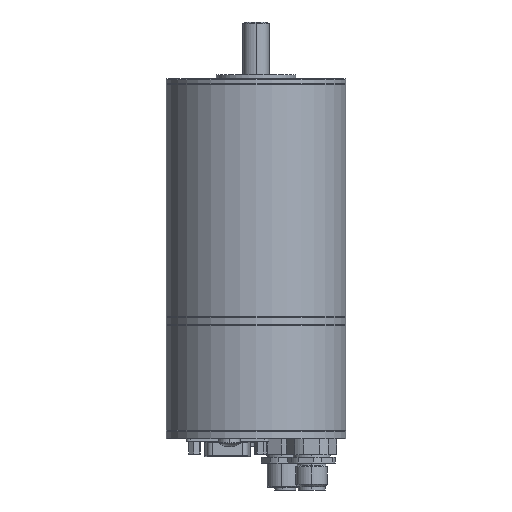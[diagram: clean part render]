
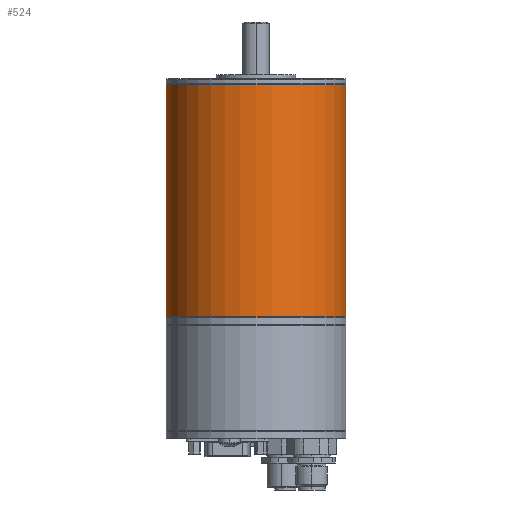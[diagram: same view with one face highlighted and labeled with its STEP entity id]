
A CAD part, left-side view. The second image highlights one B-rep face of the part: STEP entity #524.
In plain terms, the highlighted cylindrical face has radius 34 mm (diameter 68 mm), a partial arc.
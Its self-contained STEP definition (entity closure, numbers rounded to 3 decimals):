
#521 = EDGE_CURVE ( 'NONE', #14759, #14758, #1321, .T. ) ;
#524 = ADVANCED_FACE ( 'NONE', ( #1303 ), #1491, .T. ) ;
#1303 = FACE_OUTER_BOUND ( 'NONE', #19984, .T. ) ;
#1321 = CIRCLE ( 'NONE', #1445, 34. ) ;
#1443 = DIRECTION ( 'NONE',  ( 0., -1., 0. ) ) ;
#1444 = DIRECTION ( 'NONE',  ( 0., 0., 1. ) ) ;
#1445 = AXIS2_PLACEMENT_3D ( 'NONE', #1449, #1444, #1443 ) ;
#1449 = CARTESIAN_POINT ( 'NONE',  ( 0., 0., -3.6 ) ) ;
#1491 = CYLINDRICAL_SURFACE ( 'NONE', #1660, 34. ) ;
#1657 = DIRECTION ( 'NONE',  ( 0., -1., 0. ) ) ;
#1658 = DIRECTION ( 'NONE',  ( 0., 0., 1. ) ) ;
#1659 = CARTESIAN_POINT ( 'NONE',  ( 0., 0., 163.181 ) ) ;
#1660 = AXIS2_PLACEMENT_3D ( 'NONE', #1659, #1658, #1657 ) ;
#5180 = DIRECTION ( 'NONE',  ( 0., 0., 1. ) ) ;
#5195 = VECTOR ( 'NONE', #5180, 1000. ) ;
#5196 = CARTESIAN_POINT ( 'NONE',  ( 0., 34., 163.181 ) ) ;
#5197 = LINE ( 'NONE', #5196, #5195 ) ;
#5246 = CARTESIAN_POINT ( 'NONE',  ( 0., 34., -91.4 ) ) ;
#5560 = CARTESIAN_POINT ( 'NONE',  ( 0., 34., -3.6 ) ) ;
#5618 = CARTESIAN_POINT ( 'NONE',  ( 0., -34., -3.6 ) ) ;
#5695 = DIRECTION ( 'NONE',  ( 0., 0., 1. ) ) ;
#5696 = VECTOR ( 'NONE', #5695, 1000. ) ;
#5780 = LINE ( 'NONE', #5798, #5696 ) ;
#5798 = CARTESIAN_POINT ( 'NONE',  ( 0., -34., 163.181 ) ) ;
#5799 = CARTESIAN_POINT ( 'NONE',  ( 0., -34., -91.4 ) ) ;
#7127 = CIRCLE ( 'NONE', #7212, 34. ) ;
#7208 = DIRECTION ( 'NONE',  ( 0., -1., 0. ) ) ;
#7210 = DIRECTION ( 'NONE',  ( 0., 0., 1. ) ) ;
#7211 = CARTESIAN_POINT ( 'NONE',  ( 0., 0., -91.4 ) ) ;
#7212 = AXIS2_PLACEMENT_3D ( 'NONE', #7211, #7210, #7208 ) ;
#14699 = EDGE_CURVE ( 'NONE', #14710, #14759, #5197, .T. ) ;
#14710 = VERTEX_POINT ( 'NONE', #5246 ) ;
#14758 = VERTEX_POINT ( 'NONE', #5618 ) ;
#14759 = VERTEX_POINT ( 'NONE', #5560 ) ;
#14866 = VERTEX_POINT ( 'NONE', #5799 ) ;
#14878 = EDGE_CURVE ( 'NONE', #14866, #14758, #5780, .T. ) ;
#19932 = ORIENTED_EDGE ( 'NONE', *, *, #19934, .T. ) ;
#19934 = EDGE_CURVE ( 'NONE', #14710, #14866, #7127, .T. ) ;
#19935 = ORIENTED_EDGE ( 'NONE', *, *, #521, .F. ) ;
#19937 = ORIENTED_EDGE ( 'NONE', *, *, #14878, .T. ) ;
#19958 = ORIENTED_EDGE ( 'NONE', *, *, #14699, .F. ) ;
#19984 = EDGE_LOOP ( 'NONE', ( #19958, #19932, #19937, #19935 ) ) ;
